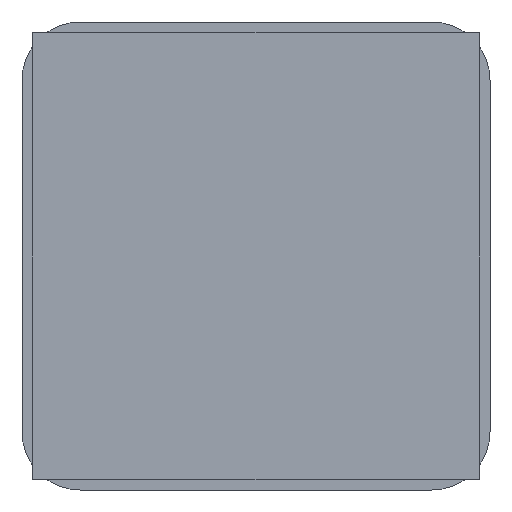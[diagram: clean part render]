
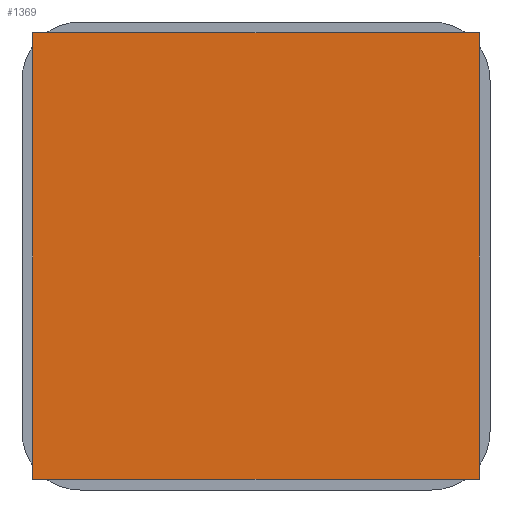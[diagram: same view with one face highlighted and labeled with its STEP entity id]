
A CAD part, front view. The second image highlights one B-rep face of the part: STEP entity #1369.
In plain terms, the highlighted planar face has unit normal (0, -1, 0).
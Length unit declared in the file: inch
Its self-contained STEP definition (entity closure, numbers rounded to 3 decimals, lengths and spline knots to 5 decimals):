
#62 = VERTEX_POINT ( 'NONE', #4743 ) ;
#522 = EDGE_CURVE ( 'NONE', #62, #2747, #916, .T. ) ;
#581 = LINE ( 'NONE', #2127, #3536 ) ;
#820 = ORIENTED_EDGE ( 'NONE', *, *, #4278, .F. ) ;
#896 = ORIENTED_EDGE ( 'NONE', *, *, #1654, .F. ) ;
#908 = CARTESIAN_POINT ( 'NONE',  ( 0.5, -0.005, 0.5 ) ) ;
#916 = LINE ( 'NONE', #3961, #1140 ) ;
#1062 = DIRECTION ( 'NONE',  ( 0., 0., 1. ) ) ;
#1070 = FACE_OUTER_BOUND ( 'NONE', #2547, .T. ) ;
#1140 = VECTOR ( 'NONE', #2093, 39.37008 ) ;
#1288 = CARTESIAN_POINT ( 'NONE',  ( -0.5, -0.005, 0.5 ) ) ;
#1369 = ADVANCED_FACE ( 'NONE', ( #1070 ), #1393, .F. ) ;
#1393 = PLANE ( 'NONE',  #2402 ) ;
#1654 = EDGE_CURVE ( 'NONE', #2843, #62, #581, .T. ) ;
#1715 = ORIENTED_EDGE ( 'NONE', *, *, #522, .F. ) ;
#1736 = VECTOR ( 'NONE', #4389, 39.37008 ) ;
#1755 = CARTESIAN_POINT ( 'NONE',  ( -0.5, -0.005, 0.5 ) ) ;
#2028 = VERTEX_POINT ( 'NONE', #1755 ) ;
#2093 = DIRECTION ( 'NONE',  ( -1., 0., 0. ) ) ;
#2127 = CARTESIAN_POINT ( 'NONE',  ( 0.5, -0.005, -0.5 ) ) ;
#2281 = LINE ( 'NONE', #4938, #4917 ) ;
#2303 = DIRECTION ( 'NONE',  ( 0., 1., 0. ) ) ;
#2402 = AXIS2_PLACEMENT_3D ( 'NONE', #4249, #2303, #3854 ) ;
#2547 = EDGE_LOOP ( 'NONE', ( #820, #1715, #896, #4534 ) ) ;
#2747 = VERTEX_POINT ( 'NONE', #3508 ) ;
#2843 = VERTEX_POINT ( 'NONE', #908 ) ;
#3367 = EDGE_CURVE ( 'NONE', #2028, #2843, #3825, .T. ) ;
#3508 = CARTESIAN_POINT ( 'NONE',  ( -0.5, -0.005, -0.5 ) ) ;
#3536 = VECTOR ( 'NONE', #4826, 39.37008 ) ;
#3825 = LINE ( 'NONE', #1288, #1736 ) ;
#3854 = DIRECTION ( 'NONE',  ( 0., 0., 1. ) ) ;
#3961 = CARTESIAN_POINT ( 'NONE',  ( -0.5, -0.005, -0.5 ) ) ;
#4249 = CARTESIAN_POINT ( 'NONE',  ( -0.5, -0.005, 0.5 ) ) ;
#4278 = EDGE_CURVE ( 'NONE', #2747, #2028, #2281, .T. ) ;
#4389 = DIRECTION ( 'NONE',  ( 1., 0., 0. ) ) ;
#4534 = ORIENTED_EDGE ( 'NONE', *, *, #3367, .F. ) ;
#4743 = CARTESIAN_POINT ( 'NONE',  ( 0.5, -0.005, -0.5 ) ) ;
#4826 = DIRECTION ( 'NONE',  ( 0., 0., -1. ) ) ;
#4917 = VECTOR ( 'NONE', #1062, 39.37008 ) ;
#4938 = CARTESIAN_POINT ( 'NONE',  ( -0.5, -0.005, -0.5 ) ) ;
